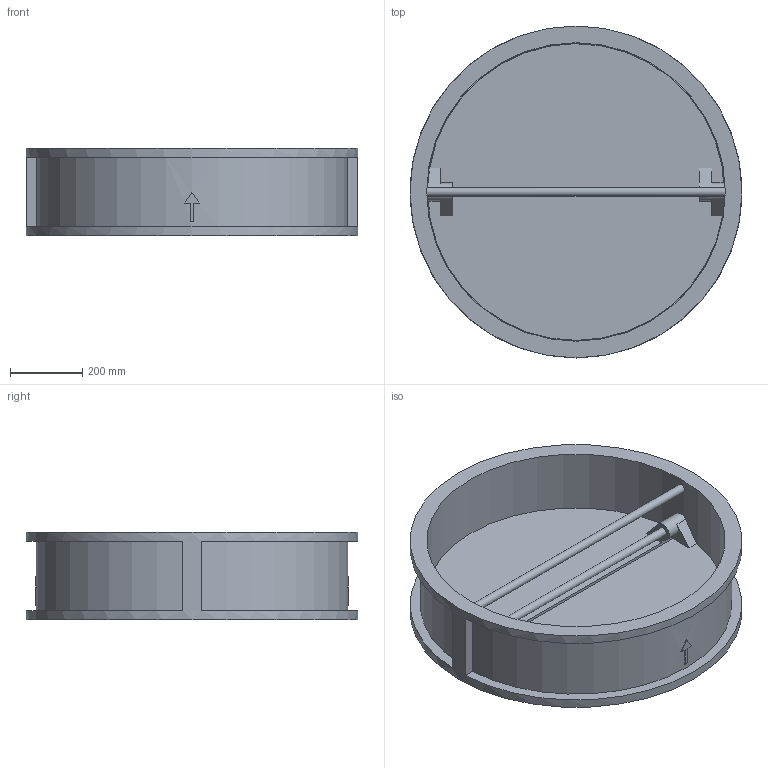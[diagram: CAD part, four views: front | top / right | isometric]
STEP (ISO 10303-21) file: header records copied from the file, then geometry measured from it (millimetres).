
FILE_DESCRIPTION(('STEP AP203'), '1');
FILE_NAME('孰囡囗 钺疣蝽 溻篚耱忸瘅囹 戾骠豚眦邂 010C DN800', '', ('UNSPECIFIED'), ('UNSPECIFIED'), 'ASCON STEP Converter 1.6', 'ASCON Math Kernel', '');
FILE_SCHEMA(('CONFIG_CONTROL_DESIGN'));
Length unit declared in the file: millimetre
Bounding box: 917 x 917 x 241 mm (x, y, z)
Volume: 29552596.3 mm3; surface area: 3016266.3 mm2
Topology: 1 solids, 1 shells, 73 faces, 201 edges, 132 vertices
Faces by surface type: plane 55, cylinder 16, cone 2
Full cylindrical faces by diameter (mm): 24 x4, 825 x1, 917 x1
Entity records: 4166 total; most frequent: CARTESIAN_POINT 1707, ORIENTED_EDGE 388, DIRECTION 360, EDGE_CURVE 194, VERTEX_POINT 132, LINE 124, VECTOR 124, AXIS2_PLACEMENT_3D 118
